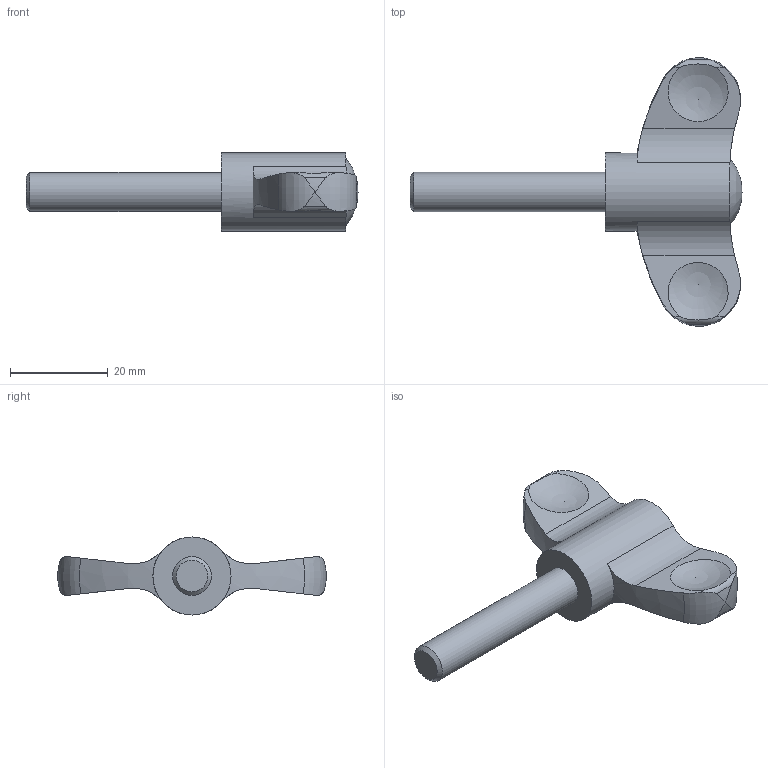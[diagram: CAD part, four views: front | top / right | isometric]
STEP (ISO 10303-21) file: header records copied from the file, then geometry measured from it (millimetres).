
FILE_DESCRIPTION( ( 'STEP AP203' ), '1' );
FILE_NAME( 'C:/Temp/Ganter_Step_05_03_2020/data/2_2/gn_633/Wing nut GN 633-55-M8-40-DRT.stp', '2020-03-05T12:20:55', ( 'License CC BY-ND 4.0' ), ( 'CADENAS' ), ' ', 'PARTsolutions', ' ' );
FILE_SCHEMA( ( 'CONFIG_CONTROL_DESIGN' ) );
Length unit declared in the file: millimetre
Products named in the file (1): _Wing nut GN 633-55-M8-40-DRT
Bounding box: 68 x 55 x 16 mm (x, y, z)
Volume: 11094.9 mm3; surface area: 4423.8 mm2
Topology: 1 solids, 1 shells, 31 faces, 97 edges, 64 vertices
Faces by surface type: cylinder 14, plane 6, bspline 4, sphere 4, torus 2, cone 1
Full cylindrical faces by diameter (mm): 8 x1, 16 x1
Entity records: 1486 total; most frequent: CARTESIAN_POINT 754, ORIENTED_EDGE 154, DIRECTION 110, EDGE_CURVE 77, VERTEX_POINT 59, AXIS2_PLACEMENT_3D 45, B_SPLINE_CURVE_WITH_KNOTS 40, EDGE_LOOP 36
